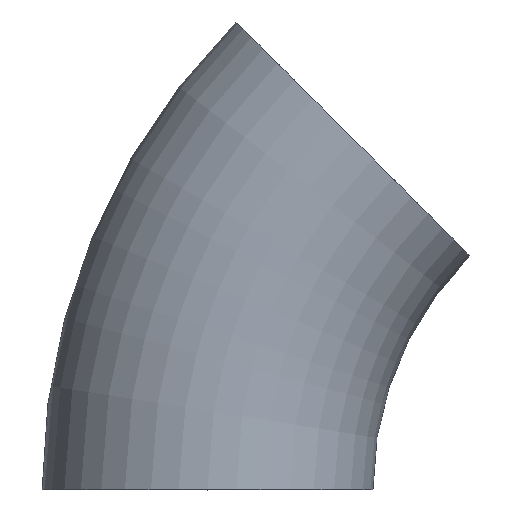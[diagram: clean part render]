
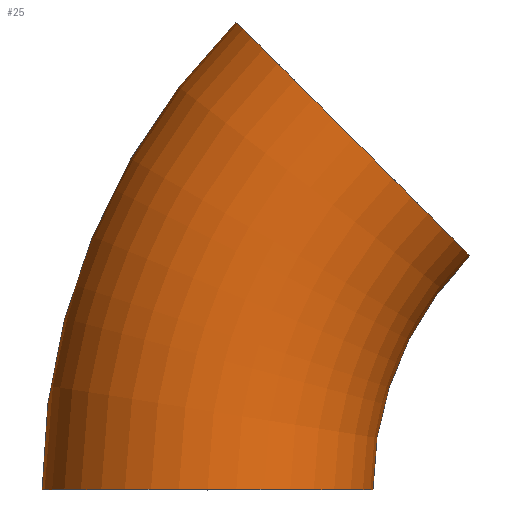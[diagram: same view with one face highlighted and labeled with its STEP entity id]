
A CAD part, top view. The second image highlights one B-rep face of the part: STEP entity #25.
In plain terms, the highlighted toroidal (fillet/blend) face has major radius 19.05 mm and minor radius 6.35 mm.
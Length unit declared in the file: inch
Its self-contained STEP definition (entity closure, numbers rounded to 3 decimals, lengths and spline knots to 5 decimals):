
#2 = CIRCLE ( 'NONE', #138, 0.5 ) ;
#4 = DIRECTION ( 'NONE',  ( 0., 1., 0. ) ) ;
#7 = CARTESIAN_POINT ( 'NONE',  ( -0.75, 0., 0. ) ) ;
#10 = VERTEX_POINT ( 'NONE', #225 ) ;
#11 = VERTEX_POINT ( 'NONE', #31 ) ;
#12 = ORIENTED_EDGE ( 'NONE', *, *, #243, .T. ) ;
#14 = DIRECTION ( 'NONE',  ( 1., 0., 0. ) ) ;
#18 = CARTESIAN_POINT ( 'NONE',  ( 0., 0., 0. ) ) ;
#19 = DIRECTION ( 'NONE',  ( 0., 0., 1. ) ) ;
#25 = ADVANCED_FACE ( 'NONE', ( #191 ), #139, .T. ) ;
#28 = CIRCLE ( 'NONE', #146, 1. ) ;
#31 = CARTESIAN_POINT ( 'NONE',  ( -1., 0., 0. ) ) ;
#43 = CIRCLE ( 'NONE', #155, 0.25 ) ;
#48 = CIRCLE ( 'NONE', #143, 0.25 ) ;
#54 = DIRECTION ( 'NONE',  ( 0., 0., 1. ) ) ;
#55 = DIRECTION ( 'NONE',  ( 0.707, 0.707, 0. ) ) ;
#69 = VERTEX_POINT ( 'NONE', #193 ) ;
#74 = CARTESIAN_POINT ( 'NONE',  ( -0.53033, 0.53033, 0. ) ) ;
#96 = CARTESIAN_POINT ( 'NONE',  ( -0.70711, 0.70711, 0. ) ) ;
#118 = ORIENTED_EDGE ( 'NONE', *, *, #226, .T. ) ;
#138 = AXIS2_PLACEMENT_3D ( 'NONE', #164, #161, #153 ) ;
#139 = TOROIDAL_SURFACE ( 'NONE', #181, 0.75, 0.25 ) ;
#143 = AXIS2_PLACEMENT_3D ( 'NONE', #7, #4, #149 ) ;
#146 = AXIS2_PLACEMENT_3D ( 'NONE', #18, #19, #14 ) ;
#149 = DIRECTION ( 'NONE',  ( 0., 0., 1. ) ) ;
#153 = DIRECTION ( 'NONE',  ( 1., 0., 0. ) ) ;
#155 = AXIS2_PLACEMENT_3D ( 'NONE', #74, #55, #54 ) ;
#161 = DIRECTION ( 'NONE',  ( 0., 0., 1. ) ) ;
#164 = CARTESIAN_POINT ( 'NONE',  ( 0., 0., 0. ) ) ;
#178 = ORIENTED_EDGE ( 'NONE', *, *, #247, .F. ) ;
#181 = AXIS2_PLACEMENT_3D ( 'NONE', #223, #215, #216 ) ;
#191 = FACE_OUTER_BOUND ( 'NONE', #236, .T. ) ;
#193 = CARTESIAN_POINT ( 'NONE',  ( -0.35355, 0.35355, 0. ) ) ;
#215 = DIRECTION ( 'NONE',  ( 0., 0., 1. ) ) ;
#216 = DIRECTION ( 'NONE',  ( 1., 0., 0. ) ) ;
#218 = EDGE_CURVE ( 'NONE', #220, #69, #43, .T. ) ;
#220 = VERTEX_POINT ( 'NONE', #96 ) ;
#223 = CARTESIAN_POINT ( 'NONE',  ( 0., 0., 0. ) ) ;
#225 = CARTESIAN_POINT ( 'NONE',  ( -0.5, 0., 0. ) ) ;
#226 = EDGE_CURVE ( 'NONE', #220, #11, #28, .T. ) ;
#236 = EDGE_LOOP ( 'NONE', ( #256, #118, #12, #178 ) ) ;
#243 = EDGE_CURVE ( 'NONE', #11, #10, #48, .T. ) ;
#247 = EDGE_CURVE ( 'NONE', #69, #10, #2, .T. ) ;
#256 = ORIENTED_EDGE ( 'NONE', *, *, #218, .F. ) ;
